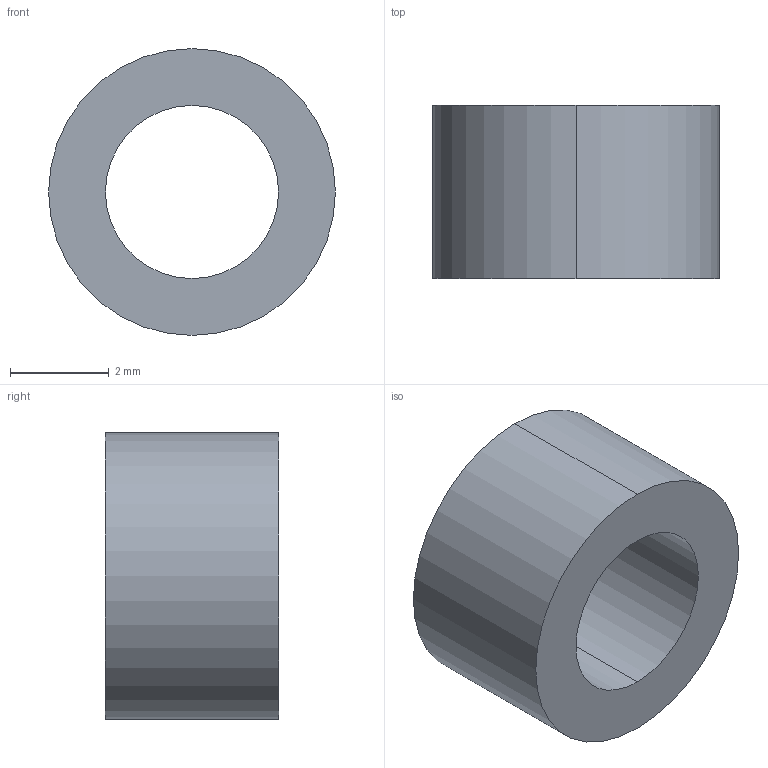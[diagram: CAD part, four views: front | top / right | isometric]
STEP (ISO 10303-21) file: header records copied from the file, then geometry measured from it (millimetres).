
FILE_DESCRIPTION(('Open CASCADE Model'),'2;1');
FILE_NAME('pcb-spacer-od5p8-id3p5-l3p5.step','2026-11-14T14:31:59',( 'Author'),('Open CASCADE'),'Open CASCADE STEP processor 8.0', 'Open CASCADE 8.0','Unknown');
FILE_SCHEMA(('AP242_MANAGED_MODEL_BASED_3D_ENGINEERING_MIM_LF {1 0 10303 442 1 1 4 }' ));
Length unit declared in the file: millimetre
Products named in the file (1): PCB Spacer OD5p8 ID3p5 L3p5
Bounding box: 5.8 x 3.5 x 5.8 mm (x, y, z)
Volume: 58.8 mm3; surface area: 135.9 mm2
Topology: 1 solids, 1 shells, 6 faces, 12 edges, 8 vertices
Faces by surface type: cylinder 4, plane 2
Entity records: 352 total; most frequent: CARTESIAN_POINT 87, DIRECTION 52, ORIENTED_EDGE 24, PCURVE 24, DEFINITIONAL_REPRESENTATION 24, LINE 20, VECTOR 20, AXIS2_PLACEMENT_3D 15
